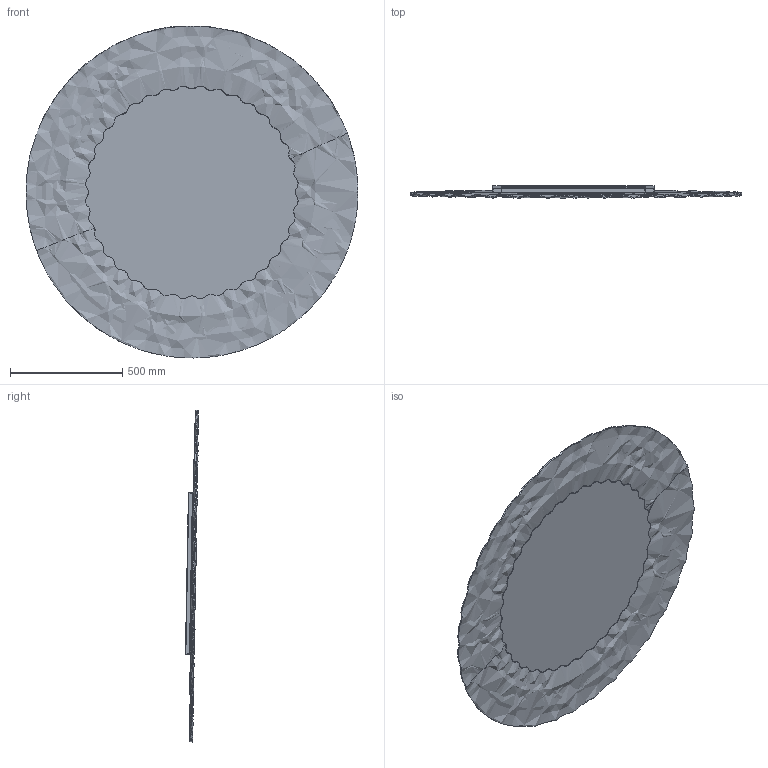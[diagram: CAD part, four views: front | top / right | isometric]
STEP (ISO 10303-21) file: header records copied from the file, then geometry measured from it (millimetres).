
FILE_DESCRIPTION(/* description */ (''),/* implementation_level */ '2;1');
FILE_NAME(/* name */ 'POP_diam148',/* time_stamp */ '2025-02-21T17:17:42+01:00',/* author */ (''),/* organization */ (''),/* preprocessor_version */ 'ST-DEVELOPER v16.5',/* originating_system */ '',/* authorisation */ '');
FILE_SCHEMA (('AUTOMOTIVE_DESIGN'));
Length unit declared in the file: millimetre
Products named in the file (1): Document
Bounding box: 1479.82 x 58.93 x 1480.29 mm (x, y, z)
Volume: 5664472.7 mm3; surface area: 5528057.4 mm2
Topology: 7 solids, 8 shells, 61 faces, 144 edges, 99 vertices
Faces by surface type: plane 48, bspline 13
Entity records: 194505 total; most frequent: CARTESIAN_POINT 193456, ORIENTED_EDGE 267, EDGE_CURVE 142, B_SPLINE_CURVE_WITH_KNOTS 138, VERTEX_POINT 97, EDGE_LOOP 65, ADVANCED_FACE 61, FACE_OUTER_BOUND 61
